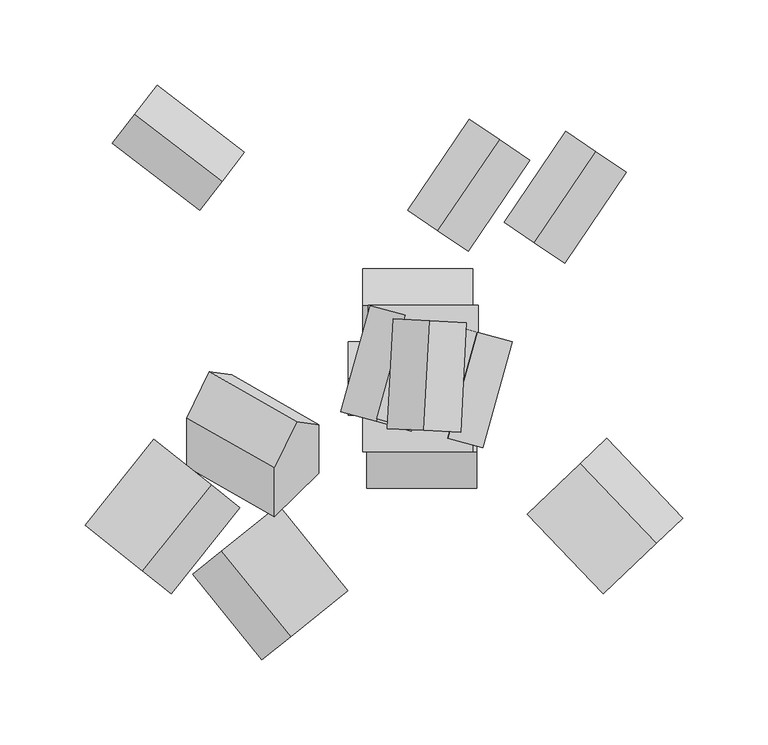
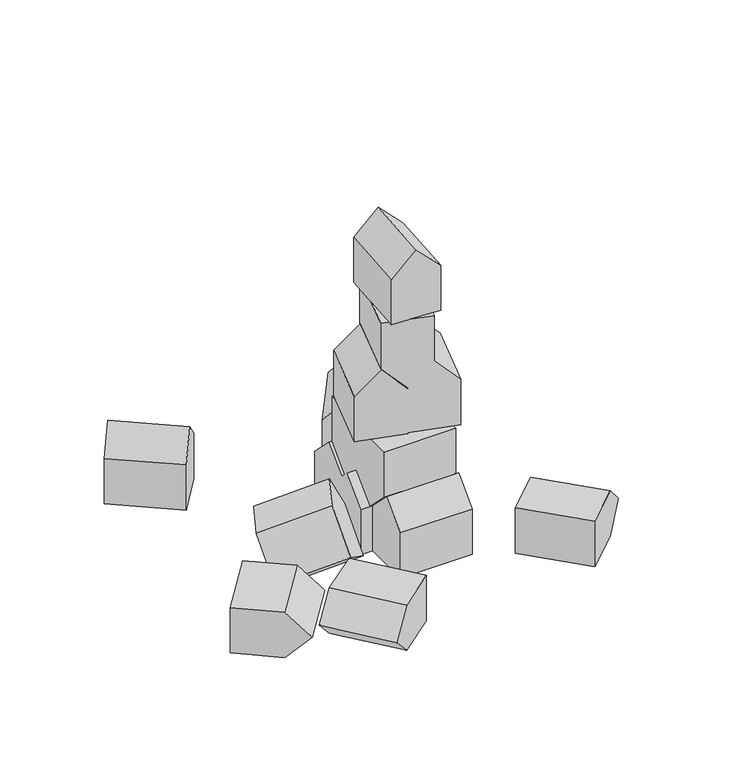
"""IFC4 building model written with IfcOpenShell, lengths in millimetres: geographic element geometry, Enscape AssetDefinition - Toy 002 Houses : Enscape AssetDefinition - Toy 002 Houses."""

from ifc_helpers import new_model, si_unit, origin, place, context, project, spatial, triangles, source, transform, mapped, element, save


def geographic_element_d9c265da(model_context):
    return source(origin(), model_context, "Body", "Tessellation", [
        triangles([(-3.4527757, -32.3349495, 258.1186924), (21.4254341, 30.9726598, 279.6285532), (-0.0545214, 32.1049172, 215.0990436), (39.507881, -34.6002023, 215.0990436), (42.9053889, 29.8396621, 258.1186924), (-0.0545214, 32.1049172, 258.1186924), (-3.4527757, -32.3349495, 215.0990436), (42.9053889, 29.8396621, 215.0990436), (39.5071316, -34.6002023, 258.1186924), (18.0271791, -33.4672023, 279.6285532), (-17.7799649, 40.1218106, 64.5302363), (-17.7799649, 61.6316396, 0.0007469), (-17.7799649, 61.6316396, 43.0204073), (46.749522, 40.1218106, 64.5302363), (-17.7799649, 18.6119771, 43.0204073), (46.749522, 61.6316396, 43.0204073), (46.749522, 61.6316396, 0.0007469), (46.749522, 18.6119771, 0.0007469), (-17.7799649, 18.6119771, 0.0007469), (46.749522, 18.6119771, 43.0204073), (-26.4115306, -2.8978521, 64.5302363), (38.1187034, -24.4076831, 43.0204073), (38.1187034, 18.6119771, 0.0007469), (38.1187034, 18.6119771, 43.0204073), (-26.4115306, -24.4076831, 43.0204073), (-26.4115306, -24.4076831, 0.0007469), (38.1187034, -24.4076831, 0.0007469), (-26.4115306, 18.6119771, 0.0007469), (38.1187034, -2.8978521, 64.5302363), (-26.4115306, 18.6119771, 43.0204073), (49.1118687, -67.4273387, 43.0204073), (-15.4183653, -24.4076831, 43.0204073), (-15.4183653, -45.9175097, 64.5302363), (49.1118687, -45.9175097, 64.5302363), (-15.4176182, -67.4273387, 43.0204073), (-15.4176182, -67.4273387, 0.0007469), (49.1118687, -24.4076831, 43.0204073), (49.1118687, -67.4273387, 0.0007469), (49.1118687, -24.4076831, 0.0007469), (-15.4183653, -24.4076831, 0.0007469), (46.749522, -45.9175097, 64.5302363), (46.749522, -24.4076831, 43.0204073), (-17.7799649, -2.8978521, 107.5498942), (46.749522, -2.8978521, 64.5302363), (-17.7799649, -45.9175097, 64.5302363), (-17.7799649, -24.4076831, 43.0204073), (-17.7799649, -2.8978521, 64.5302363), (46.749522, -2.8978521, 107.5498942), (46.749522, -45.9175097, 107.5498942), (-17.7799649, -45.9175097, 107.5498942), (49.8213957, 18.6119771, 43.0204073), (49.8213957, 40.1218106, 64.5302363), (-14.7080934, 40.1218106, 64.5302363), (-14.7080934, 18.6119771, 43.0204073), (-14.7080934, 40.1218106, 107.5498942), (49.8213957, 40.1218106, 107.5498942), (49.8213957, -2.8978521, 64.5302363), (-14.7080934, -2.8978521, 64.5302363), (49.8213957, -2.8978521, 107.5498942), (-14.7080934, -2.8978521, 107.5498942), (27.9724886, 28.3324798, 150.5695612), (10.6720128, -33.8346626, 107.5498942), (27.9724886, 28.3324798, 107.5498942), (7.2498584, 34.0990542, 172.0793766), (10.6720128, -33.8346626, 150.5695612), (-10.0506174, -28.0680883, 172.0793766), (-13.4727707, 39.8656308, 150.5695612), (-30.7725017, -22.3015094, 107.5498942), (-13.4727707, 39.8656308, 107.5498942), (-30.7725017, -22.3015094, 150.5695612), (28.4878301, 30.0652138, 150.5695612), (69.9323411, 18.5313146, 150.5695612), (69.9323411, 18.5313146, 107.5498942), (31.9099845, -37.8692478, 172.0793766), (49.2097143, 24.2978923, 172.0793766), (52.6318619, -43.6358267, 150.5695612), (11.187352, -32.1019286, 150.5695612), (52.6318619, -43.6358267, 107.5498942), (28.4878301, 30.0652138, 107.5498942), (11.187352, -32.1019286, 107.5498942), (-9.612204, -26.5728557, 172.0793766), (31.8323071, -38.1060044, 172.0793766), (11.110424, -32.3394323, 150.5695612), (7.6882702, 35.5950339, 172.0793766), (49.1327841, 24.0611358, 172.0793766), (28.4101527, 29.8277124, 150.5695612), (-9.612204, -26.5728557, 215.0990436), (7.6882702, 35.5950339, 215.0990436), (31.8323071, -38.1060044, 215.0990436), (49.1327841, 24.0611358, 215.0990436), (-100.7862536, -104.2599424, 0.0007469), (-26.7864623, -127.4718795, 43.0204073), (-77.0104156, -167.9887832, 21.5105761), (-60.2686051, -154.4831577, 0.0007469), (-117.5273194, -117.765577, 21.5105761), (-26.7864623, -127.4718795, 0.0007469), (-67.3041131, -77.2479193, 0.0007469), (-67.3041131, -77.2479193, 43.0204073), (-100.7862536, -104.2599424, 43.0204073), (-60.2686051, -154.4831577, 43.0204073), (-100.450155, 112.841468, 64.5302363), (-113.5427697, 95.774759, 43.0204073), (-151.6495371, 152.1178225, 64.5302363), (-138.5569133, 169.1845133, 0.0007469), (-164.7421427, 135.0518492, 43.0204073), (-87.3575402, 129.907414, 43.0204073), (-113.5427697, 95.774759, 0.0007469), (-138.5569133, 169.1845133, 43.0204073), (-87.3575402, 129.907414, 0.0007469), (-164.7421427, 135.0518492, 0.0007469), (-121.0338731, -54.7850871, 22.4620896), (-43.6492661, -58.6225028, 25.8879774), (-69.8345001, -55.4333715, 80.7111527), (-121.0338731, -26.1344422, 54.5535606), (-107.9412584, 0.9216364, 59.232699), (-56.7418808, -28.37729, 85.391036), (-69.8345001, -84.0840119, 48.6204334), (-94.8486437, -29.3228264, -0.2696197), (-43.6492661, -29.9718556, 57.9794461), (-94.8486437, -0.6721822, 31.8211046), (-140.4636646, -38.4981134, 43.0204073), (-106.8635171, -65.362244, 0.0007469), (-147.1600945, -115.7632192, 43.0204073), (-90.0626985, -78.7946908, 21.5105761), (-130.3592759, -129.1956569, 21.5105761), (-147.1600945, -115.7632192, 0.0007469), (-180.760242, -88.8990795, 0.0007469), (-140.4636646, -38.4981134, 0.0007469), (-106.8635171, -65.362244, 43.0204073), (-180.760242, -88.8990795, 43.0204073), (62.4412468, 137.1266681, 64.5302363), (8.4687492, 95.729204, 43.0204073), (44.1018729, 71.6254927, 43.0204073), (44.6246835, 149.1781309, 43.0204073), (26.2853096, 83.6769691, 64.5302363), (8.4687492, 95.729204, 0.0007469), (44.6246835, 149.1781309, 0.0007469), (80.257801, 125.0744332, 43.0204073), (44.1018729, 71.6254927, 0.0007469), (80.257801, 125.0744332, 0.0007469), (119.0158368, 130.2270892, 64.5302363), (101.1992735, 142.2793151, 43.0204073), (82.8598951, 76.7781351, 64.5302363), (136.8316552, 118.1748543, 43.0204073), (101.1992735, 142.2793151, 0.0007469), (65.0433318, 88.8296252, 0.0007469), (100.6764584, 64.7259138, 43.0204073), (65.0433318, 88.8296252, 43.0204073), (136.8324001, 118.1748543, 0.0007469), (100.6757135, 64.7259138, 0.0007469), (169.9657519, -84.8338753, 21.5105761), (123.2341567, -129.3330759, 43.0204073), (123.2341567, -129.3330759, 0.0007469), (154.3882871, -99.6674448, 0.0007469), (109.8890865, -52.9350956, 0.0007469), (125.4665422, -38.1022709, 21.5105761), (154.3882871, -99.6674448, 43.0204073), (78.7349379, -82.6014806, 43.0204073), (109.8890865, -52.9350956, 43.0204073), (78.7349379, -82.6014806, 0.0007469)], [[159, 160, 158], [159, 155, 160], [155, 153, 160], [160, 153, 152], [160, 152, 158], [157, 159, 158], [157, 158, 152], [157, 151, 156], [157, 156, 159], [155, 159, 156], [155, 154, 153], [154, 157, 152], [154, 155, 156], [157, 154, 151], [154, 152, 153], [154, 156, 151], [149, 147, 150], [147, 148, 146], [147, 146, 150], [146, 149, 150], [146, 145, 149], [149, 144, 147], [145, 144, 149], [144, 141, 143], [144, 143, 147], [148, 147, 143], [146, 148, 142], [145, 142, 144], [142, 148, 143], [144, 142, 141], [146, 142, 145], [142, 143, 141], [138, 139, 140], [138, 133, 139], [136, 137, 140], [133, 136, 139], [136, 140, 139], [134, 138, 140], [136, 134, 137], [134, 140, 137], [133, 138, 131], [133, 131, 135], [138, 134, 131], [133, 132, 136], [136, 132, 134], [132, 135, 131], [132, 133, 135], [132, 131, 134], [130, 123, 129], [121, 127, 130], [130, 129, 121], [121, 128, 127], [126, 123, 130], [128, 126, 127], [126, 130, 127], [129, 123, 125], [129, 125, 124], [123, 126, 125], [121, 129, 122], [128, 122, 126], [122, 124, 125], [122, 129, 124], [121, 122, 128], [122, 125, 126], [118, 120, 119], [120, 116, 119], [118, 119, 112], [117, 118, 112], [117, 111, 118], [114, 120, 118], [114, 118, 111], [120, 115, 116], [120, 114, 115], [112, 119, 113], [113, 114, 111], [113, 116, 115], [113, 119, 116], [112, 113, 117], [113, 111, 117], [113, 115, 114], [109, 110, 104], [108, 109, 104], [108, 106, 109], [108, 101, 106], [109, 107, 110], [106, 107, 109], [105, 108, 104], [107, 105, 110], [105, 104, 110], [108, 103, 101], [108, 105, 103], [106, 102, 107], [107, 102, 105], [102, 101, 103], [102, 106, 101], [102, 103, 105], [99, 93, 100], [99, 100, 92], [99, 92, 98], [96, 97, 98], [96, 98, 92], [91, 99, 98], [96, 91, 97], [91, 98, 97], [99, 95, 93], [99, 91, 95], [92, 100, 94], [96, 94, 91], [94, 93, 95], [94, 100, 93], [92, 94, 96], [94, 95, 91], [88, 89, 90], [89, 85, 90], [90, 85, 84], [90, 84, 88], [88, 87, 89], [84, 87, 88], [89, 82, 85], [87, 82, 89], [82, 83, 86], [82, 86, 85], [84, 85, 86], [84, 81, 87], [87, 81, 82], [81, 84, 86], [82, 81, 83], [81, 86, 83], [80, 77, 71], [80, 71, 79], [71, 73, 79], [73, 80, 79], [73, 78, 80], [76, 77, 80], [76, 80, 78], [71, 77, 74], [71, 74, 75], [77, 76, 74], [71, 72, 73], [72, 76, 78], [72, 75, 74], [72, 71, 75], [72, 78, 73], [72, 74, 76], [68, 70, 67], [68, 67, 69], [67, 63, 69], [63, 68, 69], [63, 62, 68], [65, 70, 68], [65, 68, 62], [67, 70, 66], [67, 66, 64], [70, 65, 66], [67, 61, 63], [61, 65, 62], [61, 64, 66], [61, 67, 64], [61, 62, 63], [61, 66, 65], [58, 59, 60], [58, 57, 59], [58, 51, 57], [57, 56, 59], [56, 60, 59], [56, 55, 60], [53, 58, 60], [53, 60, 55], [58, 54, 51], [58, 53, 54], [57, 52, 56], [52, 53, 55], [52, 51, 54], [52, 57, 51], [52, 55, 56], [52, 54, 53], [45, 49, 50], [45, 41, 49], [41, 48, 49], [48, 50, 49], [48, 43, 50], [43, 45, 50], [43, 47, 45], [41, 45, 46], [41, 46, 42], [45, 47, 46], [41, 44, 48], [44, 47, 43], [44, 42, 46], [44, 41, 42], [44, 43, 48], [44, 46, 47], [32, 39, 40], [32, 37, 39], [32, 34, 37], [37, 38, 39], [38, 40, 39], [38, 36, 40], [35, 32, 40], [35, 40, 36], [32, 33, 34], [32, 35, 33], [37, 31, 38], [31, 35, 36], [31, 34, 33], [31, 37, 34], [31, 36, 38], [31, 33, 35], [24, 30, 21], [28, 30, 24], [24, 21, 29], [28, 24, 23], [27, 28, 23], [27, 26, 28], [25, 30, 28], [30, 25, 21], [25, 28, 26], [23, 24, 22], [22, 25, 26], [22, 29, 21], [22, 24, 29], [23, 22, 27], [22, 26, 27], [22, 21, 25], [16, 18, 17], [16, 20, 18], [20, 19, 18], [18, 19, 12], [18, 12, 17], [13, 16, 17], [13, 17, 12], [13, 11, 14], [13, 14, 16], [20, 16, 14], [20, 15, 19], [15, 13, 12], [15, 20, 14], [13, 15, 11], [15, 12, 19], [15, 14, 11], [5, 10, 9], [5, 9, 4], [5, 4, 8], [7, 8, 4], [7, 3, 8], [6, 5, 8], [6, 8, 3], [5, 2, 10], [5, 6, 2], [4, 9, 1], [1, 6, 3], [1, 10, 2], [1, 9, 10], [4, 1, 7], [1, 3, 7], [1, 2, 6]]),
    ])


if __name__ == "__main__":
    model = new_model("IFC4")
    model_context = context("Model", 3, world=origin())
    ifc_project = project(units=[si_unit("LENGTHUNIT", "METRE", prefix="MILLI")], contexts=[model_context])
    site = spatial("IfcSite", under=ifc_project)
    building = spatial("IfcBuilding", under=site)
    placement = place(None, origin())
    geographic_element_shape = geographic_element_d9c265da(model_context)
    element("IfcGeographicElement", 1, ObjectType="Enscape AssetDefinition - Toy 002 Houses : Enscape AssetDefinition - Toy 002 Houses", at=placement, inside=building, context=model_context, shape_type="MappedRepresentation", body=[
        mapped(geographic_element_shape, transform((0.0, 0.0, 0.0), x_axis=(1.0, 0.0, 0.0), y_axis=(0.0, 1.0, 0.0), z_axis=(0.0, 0.0, 1.0))),
    ])
    save(model, "model.ifc")
